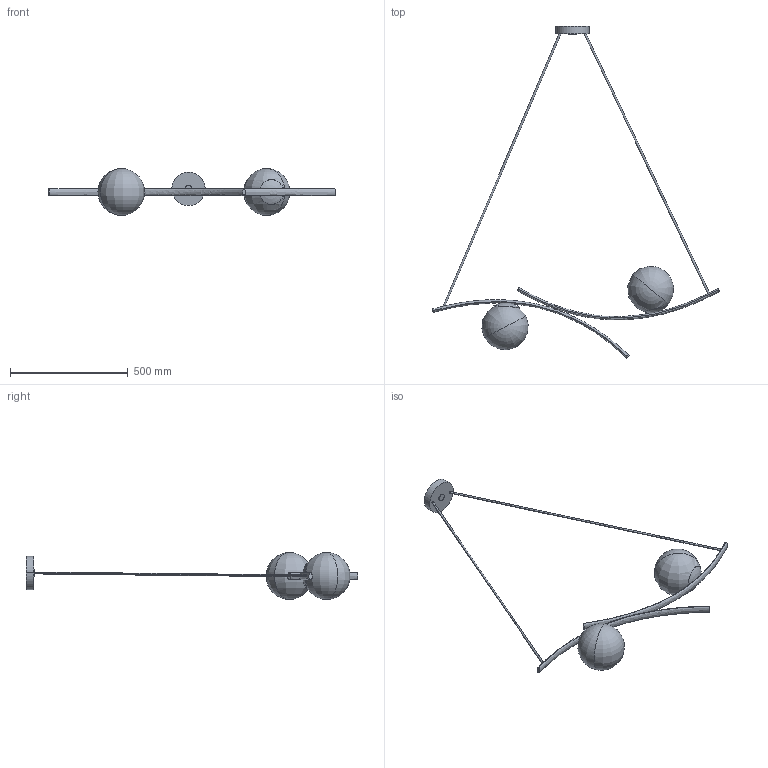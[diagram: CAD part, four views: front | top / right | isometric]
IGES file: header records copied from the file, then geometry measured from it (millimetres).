
Start section: SolidWorks IGES file using analytic representation for surfaces
Global section: file name: Y:\eforma\TECNICO\SOLIDWORKS\E-FORMA\09-LAMPADE\VIDA\02 parts\VID01_Vida.IGS; native system: SolidWorks 2022; preprocessor: SolidWorks 2022; author: eforma.tech; date: 240806.103509; units: millimetre
Bounding box: 1220.62 x 1412.42 x 198.8 mm (x, y, z)
Volume: 9538930.9 mm3; surface area: 488951.6 mm2
Topology: 1 solids, 1 shells, 34 faces, 77 edges, 46 vertices
Faces by surface type: revolution 20, plane 8, bspline 6
